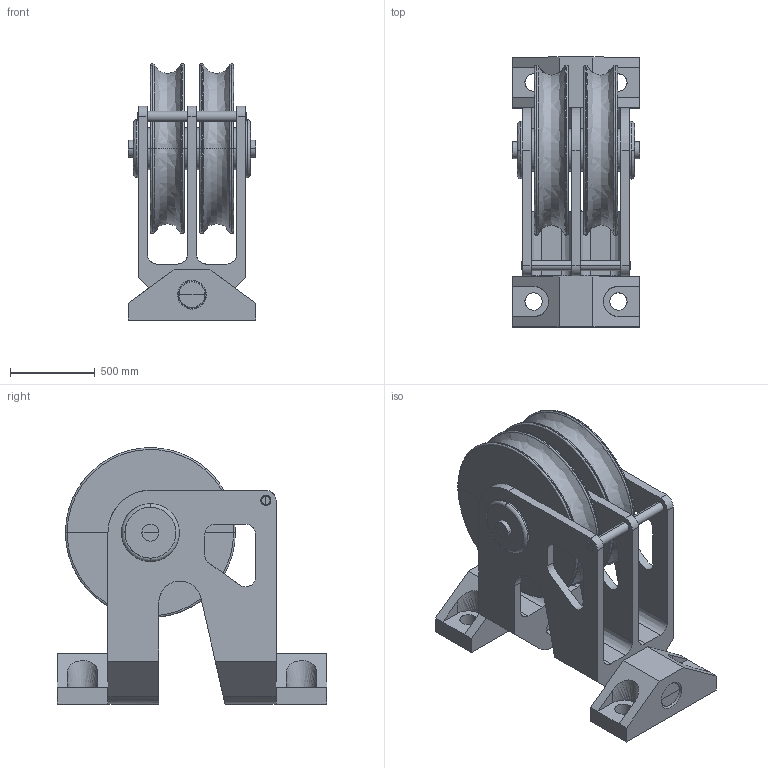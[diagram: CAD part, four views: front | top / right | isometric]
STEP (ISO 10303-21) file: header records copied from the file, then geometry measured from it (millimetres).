
FILE_DESCRIPTION(/* description */ (''),/* implementation_level */ '2;1');
FILE_NAME(/* name */ 'POULIE DOUBLE ARTICULEE D 100',/* time_stamp */ '2005-05-31T08:50:55+02:00',/* author */ (''),/* organization */ (''),/* preprocessor_version */ 'ST-DEVELOPER v8',/* originating_system */ '',/* authorisation */ '');
FILE_SCHEMA (('CONFIG_CONTROL_DESIGN'));
Length unit declared in the file: centimetre
Products named in the file (1): 1
Bounding box: 750 x 1590 x 1509.29 mm (x, y, z)
Volume: 569285322.5 mm3; surface area: 60106468.9 mm2
Topology: 23 solids, 815 shells, 1693 faces, 4747 edges, 3086 vertices
Faces by surface type: bspline 1693
Entity records: 76996 total; most frequent: CARTESIAN_POINT 54021, ORIENTED_EDGE 6710, EDGE_CURVE 4627, VERTEX_POINT 3092, B_SPLINE_CURVE_WITH_KNOTS 2006, EDGE_LOOP 1817, ADVANCED_FACE 1693, FACE_OUTER_BOUND 1693
